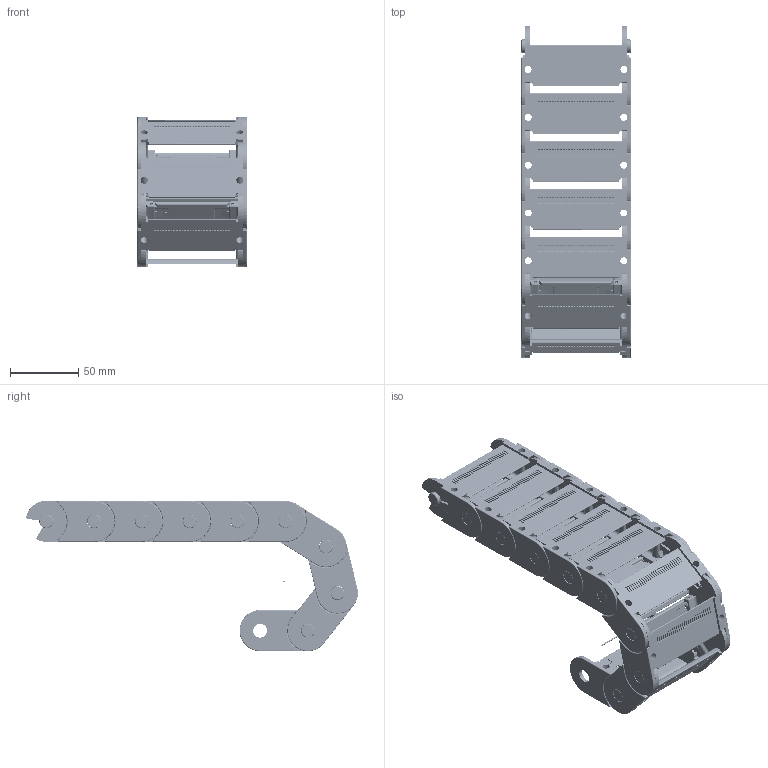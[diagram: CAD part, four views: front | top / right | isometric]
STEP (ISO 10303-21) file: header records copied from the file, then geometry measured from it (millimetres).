
FILE_DESCRIPTION((''),'2;1');
FILE_NAME('C:\Uebbing\PARAMETERKETTEN\KOLIBRI\Kol_30_080_2\Kol_30_080_2_R40.stp','2012-03-05T11:08:57',('Uebbing'),(''),'Autodesk Inventor 10','Autodesk Inventor 10','');
FILE_SCHEMA(('AUTOMOTIVE_DESIGN { 1 0 10303 214 1 1 1 1 }'));
Length unit declared in the file: millimetre
Products named in the file (5): KOLIBRI 30_080_2_PARAMETRISCH; Achse; Kol_30_080_2_Glied; Kol 30_080_2_ Lasche; Kol 30_080_0 Klappsteg
Assembly tree (12 placements, depth 3):
  KOLIBRI 30_080_2_PARAMETRISCH
    Achse
    Kol_30_080_2_Glied  x9
      Kol 30_080_2_ Lasche
      Kol 30_080_0 Klappsteg
Bounding box: 80 x 242.78 x 110 mm (x, y, z)
Volume: 198240.1 mm3; surface area: 161084.9 mm2
Topology: 19 solids, 19 shells, 8652 faces, 23467 edges, 15429 vertices
Faces by surface type: plane 4412, bspline 2421, cylinder 1639, torus 117, cone 36, sphere 27
Full cylindrical faces by diameter (mm): 1 x1, 1.166 x9, 2.048 x9, 2.8 x54, 5.1 x9, 10 x9, 10.1 x9
Entity records: 33285 total; most frequent: CARTESIAN_POINT 10054, ORIENTED_EDGE 5136, DIRECTION 4171, EDGE_CURVE 2568, VERTEX_POINT 1703, VECTOR 1693, LINE 1693, AXIS2_PLACEMENT_3D 1239
